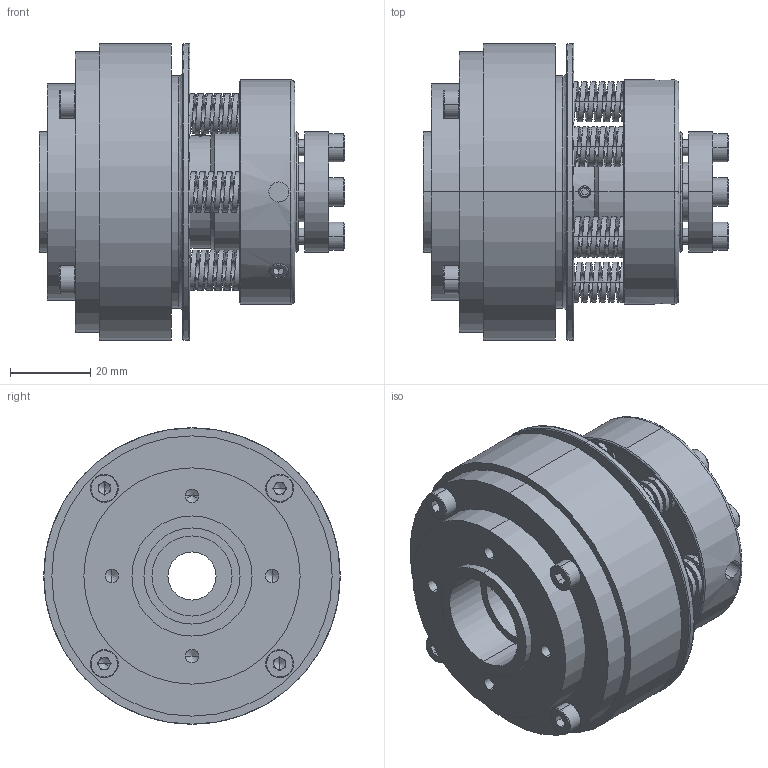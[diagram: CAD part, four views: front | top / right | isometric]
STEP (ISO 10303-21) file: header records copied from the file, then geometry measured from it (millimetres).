
FILE_DESCRIPTION (( 'STEP AP203' ), '1' );
FILE_NAME ('STL25F-M,H-P20.STEP', '2019-06-01T02:16:36', ( '' ), ( '' ), 'SwSTEP 2.0', 'SolidWorks 2015', '' );
FILE_SCHEMA (( 'CONFIG_CONTROL_DESIGN' ));
Length unit declared in the file: millimetre
Products named in the file (1): STL25F-M,H-P20
Bounding box: 76.3 x 74 x 74 mm (x, y, z)
Volume: 159100.8 mm3; surface area: 46611.2 mm2
Topology: 1 solids, 7 shells, 658 faces, 1742 edges, 1120 vertices
Faces by surface type: cylinder 374, plane 194, cone 46, bspline 44
Entity records: 55397 total; most frequent: CARTESIAN_POINT 39813, ORIENTED_EDGE 3444, DIRECTION 2906, EDGE_CURVE 1722, VERTEX_POINT 1120, AXIS2_PLACEMENT_3D 1083, EDGE_LOOP 742, VECTOR 740
